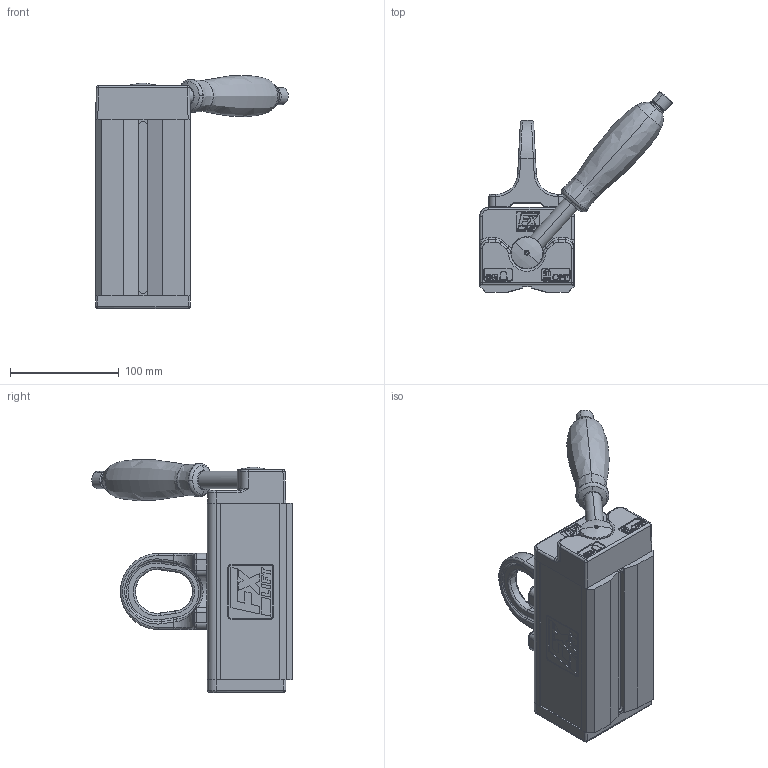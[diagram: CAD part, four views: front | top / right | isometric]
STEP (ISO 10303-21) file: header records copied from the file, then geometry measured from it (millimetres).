
FILE_DESCRIPTION(('STEP AP214'),'1');
FILE_NAME('1101_0300.stp','2017-06-12T09:29:32',('TraceParts'),('TraceParts S.A.'),'Spatial InterOp 3D',' ',' ');
FILE_SCHEMA(('automotive_design'));
Length unit declared in the file: millimetre
Products named in the file (1): 1101_0300
Bounding box: 177.21 x 184.39 x 214.45 mm (x, y, z)
Volume: 1428664.3 mm3; surface area: 140505.3 mm2
Topology: 1 solids, 1 shells, 1300 faces, 3301 edges, 1936 vertices
Faces by surface type: plane 487, bspline 438, cone 176, cylinder 175, torus 18, sphere 6
Entity records: 77684 total; most frequent: CARTESIAN_POINT 50197, ORIENTED_EDGE 6344, DIRECTION 4655, EDGE_CURVE 3172, VERTEX_POINT 1936, LINE 1659, VECTOR 1659, AXIS2_PLACEMENT_3D 1498
